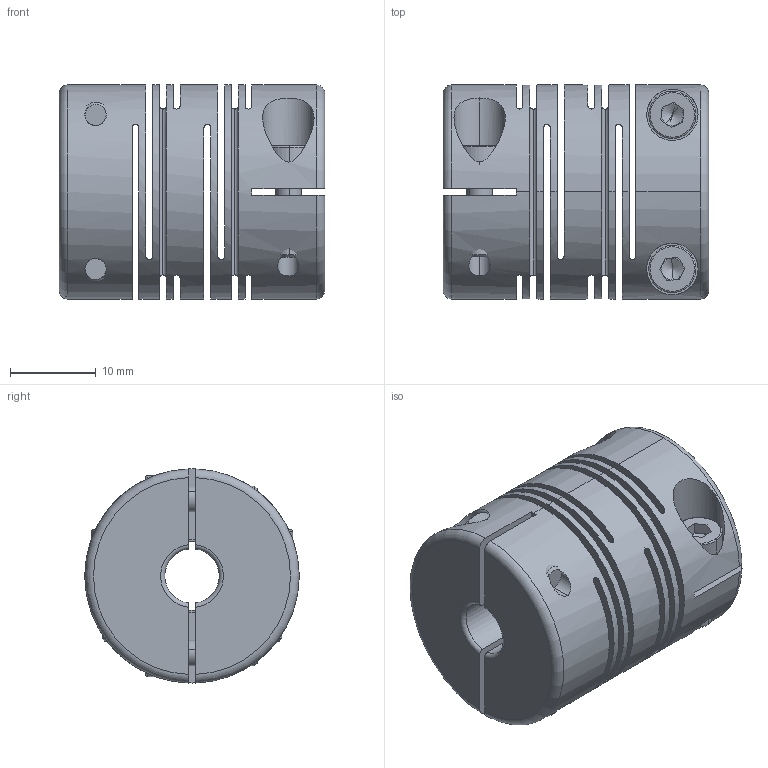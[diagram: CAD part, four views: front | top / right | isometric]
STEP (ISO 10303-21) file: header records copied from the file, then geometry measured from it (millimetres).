
FILE_DESCRIPTION (( 'STEP AP203' ), '1' );
FILE_NAME ('FACML25-6.35x8.STEP', '2014-01-23T05:24:37', ( '123' ), ( '' ), 'SwSTEP 2.0', 'SolidWorks 2013', '' );
FILE_SCHEMA (( 'CONFIG_CONTROL_DESIGN' ));
Length unit declared in the file: millimetre
Products named in the file (1): FACML25-6.35x8
Bounding box: 31 x 25 x 25 mm (x, y, z)
Surface area: 10993.7 mm2 (no closed solid volume)
Topology: 0 solids, 9 shells, 165 faces, 480 edges, 316 vertices
Faces by surface type: plane 71, cylinder 60, torus 18, cone 16
Entity records: 6162 total; most frequent: CARTESIAN_POINT 1718, DIRECTION 940, ORIENTED_EDGE 853, EDGE_CURVE 472, AXIS2_PLACEMENT_3D 366, VERTEX_POINT 316, LINE 208, VECTOR 208
